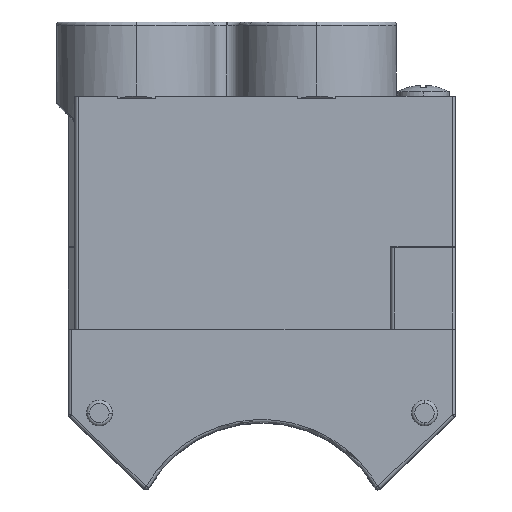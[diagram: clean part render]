
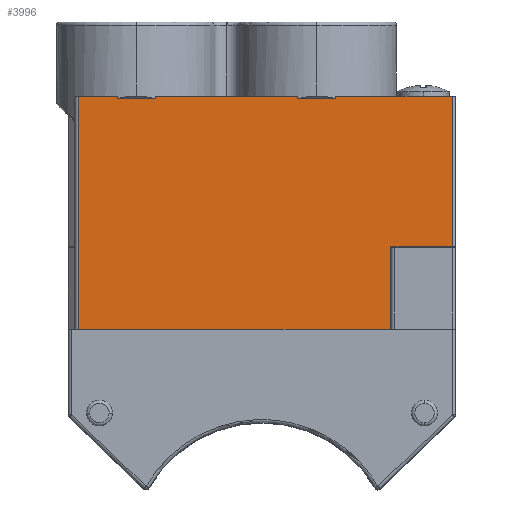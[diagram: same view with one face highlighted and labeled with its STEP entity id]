
A CAD part, top view. The second image highlights one B-rep face of the part: STEP entity #3996.
In plain terms, the highlighted planar face has unit normal (0, 0, 1).
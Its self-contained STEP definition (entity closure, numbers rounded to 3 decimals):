
#28 = VERTEX_POINT ( 'NONE', #7546 ) ;
#60 = ORIENTED_EDGE ( 'NONE', *, *, #1217, .T. ) ;
#89 = ORIENTED_EDGE ( 'NONE', *, *, #3518, .T. ) ;
#107 = CARTESIAN_POINT ( 'NONE',  ( 9.026, 42.775, 34.4 ) ) ;
#116 = CARTESIAN_POINT ( 'NONE',  ( 14.865, 25.559, 34.4 ) ) ;
#168 = DIRECTION ( 'NONE',  ( 0., 1., 0. ) ) ;
#246 = LINE ( 'NONE', #1513, #7487 ) ;
#421 = VECTOR ( 'NONE', #7262, 1000. ) ;
#511 = LINE ( 'NONE', #116, #2160 ) ;
#523 = DIRECTION ( 'NONE',  ( 0., 1., 0. ) ) ;
#805 = DIRECTION ( 'NONE',  ( -1., 0., 0. ) ) ;
#815 = DIRECTION ( 'NONE',  ( -1., 0., 0. ) ) ;
#855 = CARTESIAN_POINT ( 'NONE',  ( -13.135, 43.125, 34.4 ) ) ;
#886 = VERTEX_POINT ( 'NONE', #8789 ) ;
#909 = LINE ( 'NONE', #6004, #2732 ) ;
#980 = VERTEX_POINT ( 'NONE', #1603 ) ;
#1217 = EDGE_CURVE ( 'NONE', #2556, #3911, #7882, .T. ) ;
#1308 = DIRECTION ( 'NONE',  ( 0., -1., 0. ) ) ;
#1348 = VERTEX_POINT ( 'NONE', #107 ) ;
#1360 = VECTOR ( 'NONE', #523, 1000. ) ;
#1377 = ORIENTED_EDGE ( 'NONE', *, *, #2547, .F. ) ;
#1513 = CARTESIAN_POINT ( 'NONE',  ( 33.446, 19.825, 34.4 ) ) ;
#1514 = EDGE_CURVE ( 'NONE', #7205, #3812, #511, .T. ) ;
#1592 = EDGE_CURVE ( 'NONE', #980, #9082, #3341, .T. ) ;
#1595 = VECTOR ( 'NONE', #815, 1000. ) ;
#1603 = CARTESIAN_POINT ( 'NONE',  ( -18.974, 43.125, 34.4 ) ) ;
#1731 = DIRECTION ( 'NONE',  ( 1., 0., 0. ) ) ;
#1745 = CARTESIAN_POINT ( 'NONE',  ( -25.054, 43.125, 34.4 ) ) ;
#2009 = EDGE_CURVE ( 'NONE', #2556, #3252, #8199, .T. ) ;
#2137 = CARTESIAN_POINT ( 'NONE',  ( 9.026, 43.125, 34.4 ) ) ;
#2160 = VECTOR ( 'NONE', #4983, 1000. ) ;
#2337 = VECTOR ( 'NONE', #1308, 1000. ) ;
#2359 = CARTESIAN_POINT ( 'NONE',  ( 9.026, 43.125, 34.4 ) ) ;
#2433 = EDGE_CURVE ( 'NONE', #5705, #1348, #5516, .T. ) ;
#2485 = EDGE_CURVE ( 'NONE', #5705, #3252, #5086, .T. ) ;
#2512 = DIRECTION ( 'NONE',  ( 0., 1., 0. ) ) ;
#2545 = LINE ( 'NONE', #6191, #2337 ) ;
#2547 = EDGE_CURVE ( 'NONE', #7205, #3917, #6301, .T. ) ;
#2556 = VERTEX_POINT ( 'NONE', #2936 ) ;
#2732 = VECTOR ( 'NONE', #2512, 1000. ) ;
#2806 = ORIENTED_EDGE ( 'NONE', *, *, #5999, .T. ) ;
#2814 = CARTESIAN_POINT ( 'NONE',  ( 23.446, 19.825, 34.4 ) ) ;
#2873 = CARTESIAN_POINT ( 'NONE',  ( -13.135, 43.125, 34.4 ) ) ;
#2915 = LINE ( 'NONE', #8381, #4788 ) ;
#2936 = CARTESIAN_POINT ( 'NONE',  ( -13.135, 42.775, 34.4 ) ) ;
#2996 = CARTESIAN_POINT ( 'NONE',  ( 32.946, 43.125, 34.4 ) ) ;
#3119 = CARTESIAN_POINT ( 'NONE',  ( 23.446, 25.559, 34.4 ) ) ;
#3156 = EDGE_CURVE ( 'NONE', #28, #886, #3311, .T. ) ;
#3190 = LINE ( 'NONE', #3119, #8833 ) ;
#3217 = VERTEX_POINT ( 'NONE', #2814 ) ;
#3252 = VERTEX_POINT ( 'NONE', #2873 ) ;
#3311 = LINE ( 'NONE', #9093, #5188 ) ;
#3341 = LINE ( 'NONE', #7641, #7329 ) ;
#3407 = DIRECTION ( 'NONE',  ( -1., 0., 0. ) ) ;
#3436 = DIRECTION ( 'NONE',  ( -1., 0., 0. ) ) ;
#3518 = EDGE_CURVE ( 'NONE', #9082, #28, #2545, .T. ) ;
#3710 = DIRECTION ( 'NONE',  ( 1., 0., 0. ) ) ;
#3739 = CARTESIAN_POINT ( 'NONE',  ( 2.762, 42.775, 34.4 ) ) ;
#3812 = VERTEX_POINT ( 'NONE', #4016 ) ;
#3911 = VERTEX_POINT ( 'NONE', #7232 ) ;
#3917 = VERTEX_POINT ( 'NONE', #2996 ) ;
#3996 = ADVANCED_FACE ( 'NONE', ( #7612 ), #5881, .T. ) ;
#3998 = EDGE_CURVE ( 'NONE', #886, #3217, #3190, .T. ) ;
#4016 = CARTESIAN_POINT ( 'NONE',  ( 14.865, 42.775, 34.4 ) ) ;
#4072 = EDGE_CURVE ( 'NONE', #5042, #3917, #909, .T. ) ;
#4136 = DIRECTION ( 'NONE',  ( 1., 0., 0. ) ) ;
#4257 = CARTESIAN_POINT ( 'NONE',  ( 14.865, 43.125, 34.4 ) ) ;
#4284 = ORIENTED_EDGE ( 'NONE', *, *, #4771, .F. ) ;
#4373 = EDGE_LOOP ( 'NONE', ( #60, #6443, #7154, #89, #5302, #4568, #4284, #5688, #1377, #6902, #2806, #8707, #5886, #5192 ) ) ;
#4427 = VECTOR ( 'NONE', #3710, 1000. ) ;
#4500 = CARTESIAN_POINT ( 'NONE',  ( 2.762, 25.559, 34.4 ) ) ;
#4568 = ORIENTED_EDGE ( 'NONE', *, *, #3998, .T. ) ;
#4616 = LINE ( 'NONE', #7532, #1360 ) ;
#4771 = EDGE_CURVE ( 'NONE', #5042, #3217, #246, .T. ) ;
#4788 = VECTOR ( 'NONE', #3436, 1000. ) ;
#4789 = CARTESIAN_POINT ( 'NONE',  ( 32.946, 19.825, 34.4 ) ) ;
#4983 = DIRECTION ( 'NONE',  ( 0., -1., 0. ) ) ;
#5042 = VERTEX_POINT ( 'NONE', #4789 ) ;
#5086 = LINE ( 'NONE', #7818, #1595 ) ;
#5188 = VECTOR ( 'NONE', #4136, 1000. ) ;
#5192 = ORIENTED_EDGE ( 'NONE', *, *, #2009, .F. ) ;
#5302 = ORIENTED_EDGE ( 'NONE', *, *, #3156, .T. ) ;
#5516 = LINE ( 'NONE', #2137, #9076 ) ;
#5688 = ORIENTED_EDGE ( 'NONE', *, *, #4072, .T. ) ;
#5705 = VERTEX_POINT ( 'NONE', #2359 ) ;
#5743 = AXIS2_PLACEMENT_3D ( 'NONE', #4500, #5915, #1731 ) ;
#5881 = PLANE ( 'NONE',  #5743 ) ;
#5886 = ORIENTED_EDGE ( 'NONE', *, *, #2485, .T. ) ;
#5915 = DIRECTION ( 'NONE',  ( 0., 0., 1. ) ) ;
#5999 = EDGE_CURVE ( 'NONE', #3812, #1348, #2915, .T. ) ;
#6004 = CARTESIAN_POINT ( 'NONE',  ( 32.946, 25.559, 34.4 ) ) ;
#6086 = VECTOR ( 'NONE', #168, 1000. ) ;
#6191 = CARTESIAN_POINT ( 'NONE',  ( -25.054, 25.559, 34.4 ) ) ;
#6301 = LINE ( 'NONE', #7952, #4427 ) ;
#6443 = ORIENTED_EDGE ( 'NONE', *, *, #8543, .T. ) ;
#6902 = ORIENTED_EDGE ( 'NONE', *, *, #1514, .T. ) ;
#7154 = ORIENTED_EDGE ( 'NONE', *, *, #1592, .T. ) ;
#7205 = VERTEX_POINT ( 'NONE', #4257 ) ;
#7232 = CARTESIAN_POINT ( 'NONE',  ( -18.974, 42.775, 34.4 ) ) ;
#7262 = DIRECTION ( 'NONE',  ( -1., 0., 0. ) ) ;
#7329 = VECTOR ( 'NONE', #3407, 1000. ) ;
#7487 = VECTOR ( 'NONE', #805, 1000. ) ;
#7532 = CARTESIAN_POINT ( 'NONE',  ( -18.974, 25.559, 34.4 ) ) ;
#7546 = CARTESIAN_POINT ( 'NONE',  ( -25.054, 7., 34.4 ) ) ;
#7612 = FACE_OUTER_BOUND ( 'NONE', #4373, .T. ) ;
#7641 = CARTESIAN_POINT ( 'NONE',  ( 2.762, 43.125, 34.4 ) ) ;
#7764 = DIRECTION ( 'NONE',  ( 0., -1., 0. ) ) ;
#7818 = CARTESIAN_POINT ( 'NONE',  ( 2.762, 43.125, 34.4 ) ) ;
#7882 = LINE ( 'NONE', #3739, #421 ) ;
#7952 = CARTESIAN_POINT ( 'NONE',  ( -26.554, 43.125, 34.4 ) ) ;
#8071 = DIRECTION ( 'NONE',  ( 0., 1., 0. ) ) ;
#8199 = LINE ( 'NONE', #855, #6086 ) ;
#8381 = CARTESIAN_POINT ( 'NONE',  ( 2.762, 42.775, 34.4 ) ) ;
#8543 = EDGE_CURVE ( 'NONE', #3911, #980, #4616, .T. ) ;
#8707 = ORIENTED_EDGE ( 'NONE', *, *, #2433, .F. ) ;
#8789 = CARTESIAN_POINT ( 'NONE',  ( 23.446, 7., 34.4 ) ) ;
#8833 = VECTOR ( 'NONE', #8071, 1000. ) ;
#9076 = VECTOR ( 'NONE', #7764, 1000. ) ;
#9082 = VERTEX_POINT ( 'NONE', #1745 ) ;
#9093 = CARTESIAN_POINT ( 'NONE',  ( 2.762, 7., 34.4 ) ) ;
